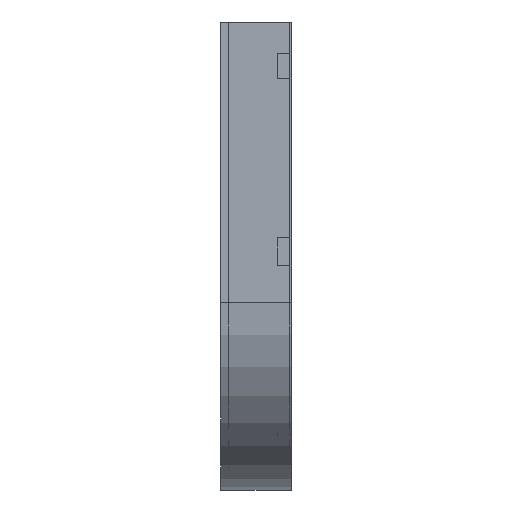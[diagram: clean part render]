
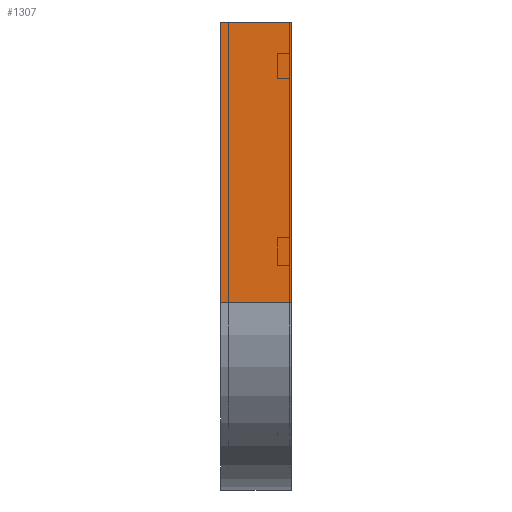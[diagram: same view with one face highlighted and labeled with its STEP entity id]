
A CAD part, left-side view. The second image highlights one B-rep face of the part: STEP entity #1307.
In plain terms, the highlighted planar face has unit normal (-1, 0, 0).
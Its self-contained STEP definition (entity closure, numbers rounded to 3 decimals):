
#17 = EDGE_LOOP ( 'NONE', ( #103, #1321, #388, #471 ) ) ;
#29 = VECTOR ( 'NONE', #1397, 1000. ) ;
#38 = EDGE_CURVE ( 'NONE', #176, #1560, #1011, .T. ) ;
#100 = CARTESIAN_POINT ( 'NONE',  ( 0., 0., -450. ) ) ;
#103 = ORIENTED_EDGE ( 'NONE', *, *, #430, .F. ) ;
#151 = LINE ( 'NONE', #911, #29 ) ;
#176 = VERTEX_POINT ( 'NONE', #1640 ) ;
#367 = VECTOR ( 'NONE', #1012, 1000. ) ;
#388 = ORIENTED_EDGE ( 'NONE', *, *, #1021, .T. ) ;
#406 = PLANE ( 'NONE',  #679 ) ;
#430 = EDGE_CURVE ( 'NONE', #1922, #1560, #151, .T. ) ;
#471 = ORIENTED_EDGE ( 'NONE', *, *, #38, .T. ) ;
#564 = LINE ( 'NONE', #1665, #367 ) ;
#597 = CARTESIAN_POINT ( 'NONE',  ( 0., 0., 0. ) ) ;
#679 = AXIS2_PLACEMENT_3D ( 'NONE', #597, #715, #1881 ) ;
#715 = DIRECTION ( 'NONE',  ( 1., 0., 0. ) ) ;
#870 = VECTOR ( 'NONE', #1158, 1000. ) ;
#911 = CARTESIAN_POINT ( 'NONE',  ( 0., 0., 0. ) ) ;
#998 = EDGE_CURVE ( 'NONE', #1333, #1922, #564, .T. ) ;
#1011 = LINE ( 'NONE', #1504, #870 ) ;
#1012 = DIRECTION ( 'NONE',  ( 0., -1., 0. ) ) ;
#1021 = EDGE_CURVE ( 'NONE', #1333, #176, #1225, .T. ) ;
#1158 = DIRECTION ( 'NONE',  ( 0., -1., 0. ) ) ;
#1225 = LINE ( 'NONE', #1259, #1432 ) ;
#1259 = CARTESIAN_POINT ( 'NONE',  ( 0., 112.5, 0. ) ) ;
#1307 = ADVANCED_FACE ( 'NONE', ( #1542 ), #406, .F. ) ;
#1321 = ORIENTED_EDGE ( 'NONE', *, *, #998, .F. ) ;
#1333 = VERTEX_POINT ( 'NONE', #1528 ) ;
#1397 = DIRECTION ( 'NONE',  ( 0., 0., -1. ) ) ;
#1432 = VECTOR ( 'NONE', #1551, 1000. ) ;
#1504 = CARTESIAN_POINT ( 'NONE',  ( 0., 0., -450. ) ) ;
#1528 = CARTESIAN_POINT ( 'NONE',  ( 0., 112.5, 0. ) ) ;
#1542 = FACE_OUTER_BOUND ( 'NONE', #17, .T. ) ;
#1551 = DIRECTION ( 'NONE',  ( 0., 0., -1. ) ) ;
#1560 = VERTEX_POINT ( 'NONE', #100 ) ;
#1640 = CARTESIAN_POINT ( 'NONE',  ( 0., 112.5, -450. ) ) ;
#1665 = CARTESIAN_POINT ( 'NONE',  ( 0., 0., 0. ) ) ;
#1881 = DIRECTION ( 'NONE',  ( 0., 0., -1. ) ) ;
#1922 = VERTEX_POINT ( 'NONE', #1976 ) ;
#1976 = CARTESIAN_POINT ( 'NONE',  ( 0., 0., 0. ) ) ;
